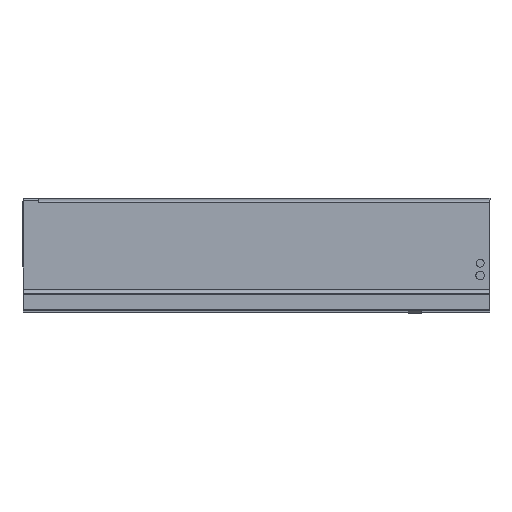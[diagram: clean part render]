
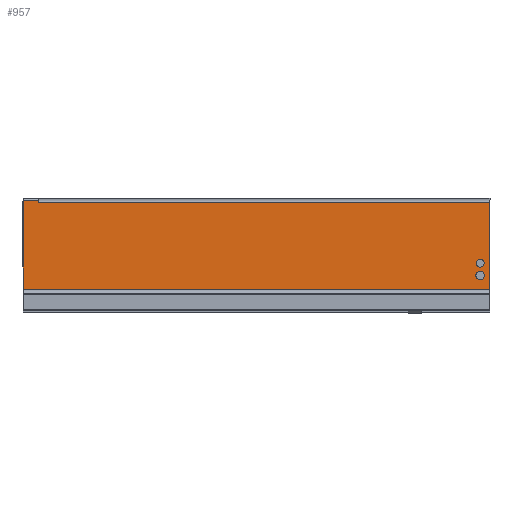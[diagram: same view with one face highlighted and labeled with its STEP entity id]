
A CAD part, left-side view. The second image highlights one B-rep face of the part: STEP entity #957.
In plain terms, the highlighted planar face has unit normal (-1, 0, 0).
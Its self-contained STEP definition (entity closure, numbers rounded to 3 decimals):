
#1 = VERTEX_POINT ( 'NONE', #802 ) ;
#39 = CARTESIAN_POINT ( 'NONE',  ( -21.5, 144.577, 98.06 ) ) ;
#40 = DIRECTION ( 'NONE',  ( 0., -1., 0. ) ) ;
#44 = CARTESIAN_POINT ( 'NONE',  ( -21.5, 10.4, 33. ) ) ;
#56 = DIRECTION ( 'NONE',  ( -1., 0., 0. ) ) ;
#57 = DIRECTION ( 'NONE',  ( 0., 0., -1. ) ) ;
#68 = CARTESIAN_POINT ( 'NONE',  ( -21.5, 0., 98.06 ) ) ;
#72 = DIRECTION ( 'NONE',  ( 0., 0., -1. ) ) ;
#96 = CARTESIAN_POINT ( 'NONE',  ( -21.5, 497., 100. ) ) ;
#102 = DIRECTION ( 'NONE',  ( 0., -1., 0. ) ) ;
#170 = CARTESIAN_POINT ( 'NONE',  ( -21.5, 10.4, 20. ) ) ;
#172 = DIRECTION ( 'NONE',  ( -1., 0., 0. ) ) ;
#173 = DIRECTION ( 'NONE',  ( 0., 0., -1. ) ) ;
#180 = CARTESIAN_POINT ( 'NONE',  ( -21.5, 144.577, 5.395 ) ) ;
#181 = DIRECTION ( 'NONE',  ( 0., -1., 0. ) ) ;
#222 = CARTESIAN_POINT ( 'NONE',  ( -21.5, 480.7, 98.06 ) ) ;
#223 = CARTESIAN_POINT ( 'NONE',  ( -21.5, 10.4, 28.9 ) ) ;
#417 = VECTOR ( 'NONE', #1590, 1000. ) ;
#437 = VECTOR ( 'NONE', #181, 1000. ) ;
#438 = VECTOR ( 'NONE', #102, 1000. ) ;
#440 = VECTOR ( 'NONE', #72, 1000. ) ;
#464 = FACE_BOUND ( 'NONE', #1748, .T. ) ;
#480 = VECTOR ( 'NONE', #40, 1000. ) ;
#523 = LINE ( 'NONE', #96, #438 ) ;
#535 = LINE ( 'NONE', #1589, #417 ) ;
#543 = CIRCLE ( 'NONE', #2277, 4.6 ) ;
#580 = FACE_BOUND ( 'NONE', #1860, .T. ) ;
#614 = VECTOR ( 'NONE', #1485, 1000. ) ;
#627 = LINE ( 'NONE', #180, #437 ) ;
#667 = LINE ( 'NONE', #1484, #614 ) ;
#696 = CIRCLE ( 'NONE', #2165, 4.6 ) ;
#709 = CIRCLE ( 'NONE', #2119, 4.1 ) ;
#711 = LINE ( 'NONE', #39, #480 ) ;
#726 = FACE_OUTER_BOUND ( 'NONE', #2004, .T. ) ;
#750 = CIRCLE ( 'NONE', #2240, 4.1 ) ;
#761 = LINE ( 'NONE', #68, #440 ) ;
#802 = CARTESIAN_POINT ( 'NONE',  ( -21.5, 10.4, 37.1 ) ) ;
#829 = VERTEX_POINT ( 'NONE', #1037 ) ;
#851 = VERTEX_POINT ( 'NONE', #1059 ) ;
#865 = VERTEX_POINT ( 'NONE', #1072 ) ;
#870 = VERTEX_POINT ( 'NONE', #1077 ) ;
#883 = VERTEX_POINT ( 'NONE', #1090 ) ;
#884 = VERTEX_POINT ( 'NONE', #1091 ) ;
#931 = VERTEX_POINT ( 'NONE', #1133 ) ;
#957 = ADVANCED_FACE ( 'NONE', ( #726, #464, #580 ), #1220, .T. ) ;
#1037 = CARTESIAN_POINT ( 'NONE',  ( -21.5, 0., 98.06 ) ) ;
#1059 = CARTESIAN_POINT ( 'NONE',  ( -21.5, 10.4, 15.4 ) ) ;
#1072 = CARTESIAN_POINT ( 'NONE',  ( -21.5, 497., 5.395 ) ) ;
#1077 = CARTESIAN_POINT ( 'NONE',  ( -21.5, 0., 5.395 ) ) ;
#1090 = CARTESIAN_POINT ( 'NONE',  ( -21.5, 497., 100. ) ) ;
#1091 = CARTESIAN_POINT ( 'NONE',  ( -21.5, 480.7, 100. ) ) ;
#1133 = CARTESIAN_POINT ( 'NONE',  ( -21.5, 10.4, 24.6 ) ) ;
#1220 = PLANE ( 'NONE',  #2129 ) ;
#1224 = CARTESIAN_POINT ( 'NONE',  ( -21.5, 144.577, 98.06 ) ) ;
#1225 = DIRECTION ( 'NONE',  ( -1., 0., 0. ) ) ;
#1226 = DIRECTION ( 'NONE',  ( 0., 0., -1. ) ) ;
#1484 = CARTESIAN_POINT ( 'NONE',  ( -21.5, 480.7, 5.395 ) ) ;
#1485 = DIRECTION ( 'NONE',  ( 0., 0., -1. ) ) ;
#1506 = CARTESIAN_POINT ( 'NONE',  ( -21.5, 10.4, 33. ) ) ;
#1508 = DIRECTION ( 'NONE',  ( -1., 0., 0. ) ) ;
#1509 = DIRECTION ( 'NONE',  ( 0., 0., -1. ) ) ;
#1539 = CARTESIAN_POINT ( 'NONE',  ( -21.5, 10.4, 20. ) ) ;
#1540 = DIRECTION ( 'NONE',  ( -1., 0., 0. ) ) ;
#1541 = DIRECTION ( 'NONE',  ( 0., 0., -1. ) ) ;
#1589 = CARTESIAN_POINT ( 'NONE',  ( -21.5, 497., 5.395 ) ) ;
#1590 = DIRECTION ( 'NONE',  ( 0., 0., -1. ) ) ;
#1684 = ORIENTED_EDGE ( 'NONE', *, *, #2230, .F. ) ;
#1748 = EDGE_LOOP ( 'NONE', ( #1957, #1992 ) ) ;
#1774 = ORIENTED_EDGE ( 'NONE', *, *, #2325, .F. ) ;
#1804 = ORIENTED_EDGE ( 'NONE', *, *, #2270, .F. ) ;
#1860 = EDGE_LOOP ( 'NONE', ( #1874, #1774 ) ) ;
#1874 = ORIENTED_EDGE ( 'NONE', *, *, #2117, .F. ) ;
#1903 = ORIENTED_EDGE ( 'NONE', *, *, #2158, .T. ) ;
#1906 = ORIENTED_EDGE ( 'NONE', *, *, #2074, .F. ) ;
#1957 = ORIENTED_EDGE ( 'NONE', *, *, #2094, .F. ) ;
#1965 = ORIENTED_EDGE ( 'NONE', *, *, #2332, .T. ) ;
#1992 = ORIENTED_EDGE ( 'NONE', *, *, #2239, .F. ) ;
#2003 = ORIENTED_EDGE ( 'NONE', *, *, #2251, .F. ) ;
#2004 = EDGE_LOOP ( 'NONE', ( #1965, #2003, #1684, #1906, #1804, #1903 ) ) ;
#2074 = EDGE_CURVE ( 'NONE', #884, #2361, #667, .T. ) ;
#2094 = EDGE_CURVE ( 'NONE', #2363, #1, #709, .T. ) ;
#2117 = EDGE_CURVE ( 'NONE', #851, #931, #696, .T. ) ;
#2119 = AXIS2_PLACEMENT_3D ( 'NONE', #1506, #1508, #1509 ) ;
#2129 = AXIS2_PLACEMENT_3D ( 'NONE', #1224, #1225, #1226 ) ;
#2158 = EDGE_CURVE ( 'NONE', #883, #865, #535, .T. ) ;
#2165 = AXIS2_PLACEMENT_3D ( 'NONE', #1539, #1540, #1541 ) ;
#2230 = EDGE_CURVE ( 'NONE', #2361, #829, #711, .T. ) ;
#2239 = EDGE_CURVE ( 'NONE', #1, #2363, #750, .T. ) ;
#2240 = AXIS2_PLACEMENT_3D ( 'NONE', #44, #56, #57 ) ;
#2251 = EDGE_CURVE ( 'NONE', #829, #870, #761, .T. ) ;
#2270 = EDGE_CURVE ( 'NONE', #883, #884, #523, .T. ) ;
#2277 = AXIS2_PLACEMENT_3D ( 'NONE', #170, #172, #173 ) ;
#2325 = EDGE_CURVE ( 'NONE', #931, #851, #543, .T. ) ;
#2332 = EDGE_CURVE ( 'NONE', #865, #870, #627, .T. ) ;
#2361 = VERTEX_POINT ( 'NONE', #222 ) ;
#2363 = VERTEX_POINT ( 'NONE', #223 ) ;
